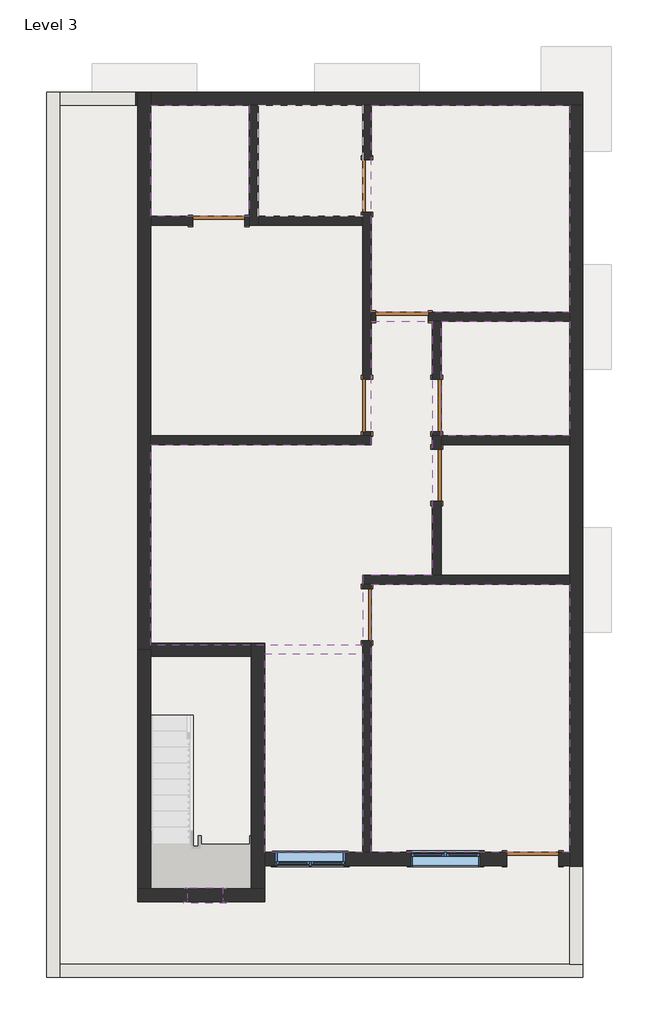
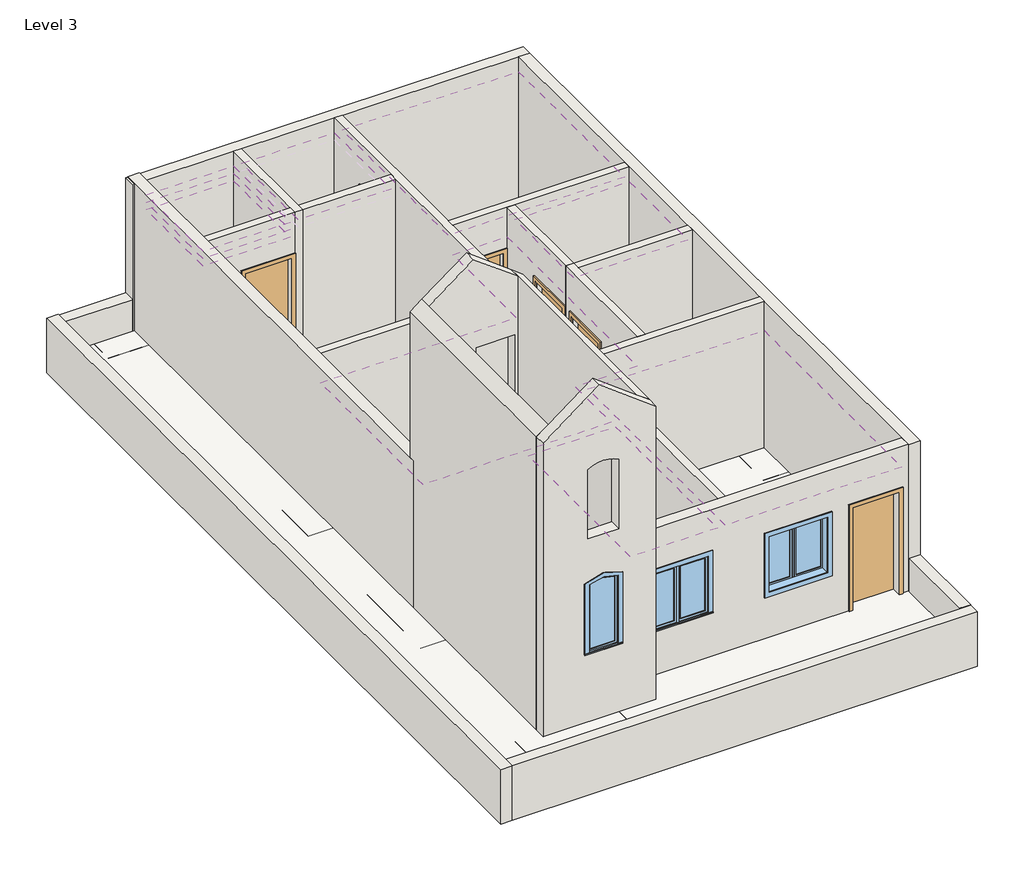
# One storey, part 1 of 2: 24 walls, 9 coverings, 8 doors, 3 slabs, 3 windows.
"""IFC4 building model written with IfcOpenShell, lengths in millimetres."""

from ifc_helpers import new_model, si_unit, frame, origin, origin_with_axes, place, context, project, spatial, polyline, circle_curve, outline, extrude, faceted_brep, transform, mapped, element, save
from ifc_brep_helpers import plane_surface, revolved_surface, advanced_brep
from components import single_flush_900_x_2100_0ca8825f, single_flush_900_x_2100_0f164b8f, single_flush_900_x_2100_f9494b7c, archtop_with_trim_600_x_1500_7229f101, casement_dbl_with_trim_1200_x_1200_534dcd48

model = new_model("IFC4")

# Units and contexts
model_context = context("Model", 3, world=origin())
ifc_project = project(units=[si_unit("LENGTHUNIT", "METRE", prefix="MILLI")], contexts=[model_context])

# Site, building, storey
site = spatial("IfcSite", under=ifc_project)
building = spatial("IfcBuilding", under=site)
storey = spatial("IfcBuildingStorey", under=building, Name="Level 3", Elevation=0.0)

# Coverings
placement = place(None, origin())
element("IfcCovering", 1, ObjectType="2' x 4' ACT System", at=placement, inside=storey, context=model_context, shape_type="SweptSolid", body=[
    extrude(outline(polyline([(-2750.200324, 5665.8948234), (-2750.200324, 7607.4073234), (-1032.5790209, 7607.4073234), (-1032.5790209, 5665.8948234), (-2750.200324, 5665.8948234)])), frame((0.0, 0.0, 2438.4), z_axis=(0.0, 0.0, 1.0), x_axis=(1.0, 0.0, 0.0)), (0.0, 0.0, 1.0), 57.15),
])
element("IfcCovering", 2, ObjectType="2' x 4' ACT System", at=placement, inside=storey, context=model_context, shape_type="SweptSolid", body=[
    extrude(outline(polyline([(1104.1959791, 1674.9198234), (1104.1959791, 3833.9198234), (2167.8209791, 3833.9198234), (2167.8209791, 1752.7073234), (2167.8209791, -607.9051766), (948.6209791, -607.9051766), (948.6209791, -1827.1051766), (-2750.200324, -1827.1051766), (-2750.200324, 1674.9198234), (1104.1959791, 1674.9198234)])), frame((0.0, 0.0, 2438.4), z_axis=(0.0, 0.0, 1.0), x_axis=(1.0, 0.0, 0.0)), (0.0, 0.0, 1.0), 57.15),
])
element("IfcCovering", 3, ObjectType="2' x 4' ACT System", at=placement, inside=storey, context=model_context, shape_type="SweptSolid", body=[
    extrude(outline(polyline([(948.6209791, -5448.1926766), (-764.2915209, -5448.1926766), (-764.2915209, -1973.3323069), (948.6209791, -1973.3323069), (948.6209791, -5448.1926766)])), frame((0.0, 0.0, 2438.4), z_axis=(0.0, 0.0, 1.0), x_axis=(1.0, 0.0, 0.0)), (0.0, 0.0, 1.0), 57.15),
])
element("IfcCovering", 4, ObjectType="2' x 4' ACT System", at=placement, inside=storey, context=model_context, shape_type="SweptSolid", body=[
    extrude(outline(polyline([(4569.7084791, -763.4801766), (4569.7084791, -5448.1926766), (1104.1959791, -5448.1926766), (1104.1959791, -763.4801766), (4569.7084791, -763.4801766)])), frame((0.0, 0.0, 2438.4), z_axis=(0.0, 0.0, 1.0), x_axis=(1.0, 0.0, 0.0)), (0.0, 0.0, 1.0), 57.15),
])
element("IfcCovering", 5, ObjectType="GWB on Mtl. Stud", at=placement, inside=storey, context=model_context, shape_type="SweptSolid", body=[
    extrude(outline(polyline([(-2750.200324, 5665.8948234), (-2750.200324, 7607.4073234), (-1032.5790209, 7607.4073234), (-1032.5790209, 5665.8948234), (-2750.200324, 5665.8948234)])), frame((0.0, 0.0, 2743.2), z_axis=(0.0, 0.0, 1.0), x_axis=(1.0, 0.0, 0.0)), (0.0, 0.0, 1.0), 107.95),
])
element("IfcCovering", 6, ObjectType="GWB on Mtl. Stud", at=placement, inside=storey, context=model_context, shape_type="SweptSolid", body=[
    extrude(outline(polyline([(-877.0040209, 5665.8948234), (-877.0040209, 7607.4073234), (948.6209791, 7607.4073234), (948.6209791, 5665.8948234), (-877.0040209, 5665.8948234)])), frame((0.0, 0.0, 2743.2), z_axis=(0.0, 0.0, 1.0), x_axis=(1.0, 0.0, 0.0)), (0.0, 0.0, 1.0), 107.95),
])
element("IfcCovering", 7, ObjectType="GWB on Mtl. Stud", at=placement, inside=storey, context=model_context, shape_type="SweptSolid", body=[
    extrude(outline(polyline([(1104.1959791, 3989.4948234), (1104.1959791, 7607.4073234), (4569.7084791, 7607.4073234), (4569.7084791, 3989.4948234), (1104.1959791, 3989.4948234)])), frame((0.0, 0.0, 2743.2), z_axis=(0.0, 0.0, 1.0), x_axis=(1.0, 0.0, 0.0)), (0.0, 0.0, 1.0), 107.95),
])
element("IfcCovering", 8, ObjectType="GWB on Mtl. Stud", at=placement, inside=storey, context=model_context, shape_type="SweptSolid", body=[
    extrude(outline(polyline([(4569.7084791, 3833.9198234), (4569.7084791, 1830.4948234), (2323.3959791, 1830.4948234), (2323.3959791, 3833.9198234), (4569.7084791, 3833.9198234)])), frame((0.0, 0.0, 2743.2), z_axis=(0.0, 0.0, 1.0), x_axis=(1.0, 0.0, 0.0)), (0.0, 0.0, 1.0), 107.95),
])
element("IfcCovering", 9, ObjectType="GWB on Mtl. Stud", at=placement, inside=storey, context=model_context, shape_type="SweptSolid", body=[
    extrude(outline(polyline([(-2750.200324, 5665.8948234), (-2750.200324, 7607.4073234), (-1032.5790209, 7607.4073234), (-1032.5790209, 5665.8948234), (-2750.200324, 5665.8948234)])), frame((0.0, 0.0, 2590.8), z_axis=(0.0, 0.0, 1.0), x_axis=(1.0, 0.0, 0.0)), (0.0, 0.0, 1.0), 107.95),
])

# Doors
single_flush_900_x_2100_shape = single_flush_900_x_2100_0ca8825f(model_context)
element("IfcDoor", 10, ObjectType="Single-Flush : 900 x 2100", at=placement, inside=storey, context=model_context, shape_type="MappedRepresentation", body=[
    mapped(single_flush_900_x_2100_shape, transform((3922.0084791, -5562.4926766, 0.0), x_axis=(1.0, 0.0, 0.0), y_axis=(0.0, 1.0, 0.0), z_axis=(0.0, 0.0, 1.0))),
])
single_flush_900_x_2100_2_shape = single_flush_900_x_2100_0f164b8f(model_context)
element("IfcDoor", 11, ObjectType="Single-Flush : 900 x 2100", at=placement, inside=storey, context=model_context, shape_type="MappedRepresentation", body=[
    mapped(single_flush_900_x_2100_2_shape, transform((1026.4084791, 6197.7073234, 0.0), x_axis=(0.0, -1.0, 0.0), y_axis=(1.0, 0.0, 0.0), z_axis=(0.0, 0.0, 1.0))),
])
element("IfcDoor", 12, ObjectType="Single-Flush : 900 x 2100", at=placement, inside=storey, context=model_context, shape_type="MappedRepresentation", body=[
    mapped(single_flush_900_x_2100_2_shape, transform((1026.4084791, 2362.3073234, 0.0), x_axis=(0.0, -1.0, 0.0), y_axis=(1.0, 0.0, 0.0), z_axis=(0.0, 0.0, 1.0))),
])
element("IfcDoor", 13, ObjectType="Single-Flush : 900 x 2100", at=placement, inside=storey, context=model_context, shape_type="MappedRepresentation", body=[
    mapped(single_flush_900_x_2100_2_shape, transform((1636.0084791, 3911.7073234, 0.0), x_axis=(-1.0, 0.0, 0.0), y_axis=(0.0, -1.0, 0.0), z_axis=(0.0, 0.0, 1.0))),
])
element("IfcDoor", 14, ObjectType="Single-Flush : 900 x 2100", at=placement, inside=storey, context=model_context, shape_type="MappedRepresentation", body=[
    mapped(single_flush_900_x_2100_2_shape, transform((2245.6084791, 1143.1073234, 0.0), x_axis=(0.0, 1.0, 0.0), y_axis=(-1.0, 0.0, 0.0), z_axis=(0.0, 0.0, 1.0))),
])
element("IfcDoor", 15, ObjectType="Single-Flush : 900 x 2100", at=placement, inside=storey, context=model_context, shape_type="MappedRepresentation", body=[
    mapped(single_flush_900_x_2100_2_shape, transform((1026.4084791, -1295.2926766, 0.0), x_axis=(0.0, 1.0, 0.0), y_axis=(-1.0, 0.0, 0.0), z_axis=(0.0, 0.0, 1.0))),
])
single_flush_900_x_2100_3_shape = single_flush_900_x_2100_f9494b7c(model_context)
element("IfcDoor", 16, ObjectType="Single-Flush : 900 x 2100", at=placement, inside=storey, context=model_context, shape_type="MappedRepresentation", body=[
    mapped(single_flush_900_x_2100_3_shape, transform((-1564.3915209, 5588.1073234, 0.0), x_axis=(1.0, 0.0, 0.0), y_axis=(0.0, 1.0, 0.0), z_axis=(0.0, 0.0, 1.0))),
])
element("IfcDoor", 17, ObjectType="Single-Flush : 900 x 2100", at=placement, inside=storey, context=model_context, shape_type="MappedRepresentation", body=[
    mapped(single_flush_900_x_2100_3_shape, transform((2245.6084791, 2362.3073234, 0.0), x_axis=(0.0, -1.0, 0.0), y_axis=(1.0, 0.0, 0.0), z_axis=(0.0, 0.0, 1.0))),
])

# Slabs
element("IfcSlab", 18, ObjectType="75 mm  LW Concrete on 50 mm Metal Deck", at=placement, inside=storey, context=model_context, shape_type="SweptSolid", body=[
    extrude(outline(polyline([(-4345.6915209, -7403.9926766), (-4345.6915209, 7607.4073234), (-3012.1915209, 7607.4073234), (-2859.7915209, 7607.4073234), (4569.7084791, 7607.4073234), (4569.7084791, -5689.4926766), (4569.7084791, -7403.9926766), (-4345.6915209, -7403.9926766)])), frame((0.0, 0.0, -127.0), z_axis=(0.0, 0.0, 1.0), x_axis=(1.0, 0.0, 0.0)), (0.0, 0.0, 1.0), 127.0),
])
element("IfcSlab", 19, ObjectType="75 mm  LW Concrete on 50 mm Metal Deck", at=placement, inside=storey, context=model_context, shape_type="SweptSolid", body=[
    extrude(outline(polyline([(-2978.800324, 7836.0073234), (4798.3084791, 7836.0073234), (4798.3084791, -5676.7926766), (-764.2915209, -5676.7926766), (-764.2915209, -1968.3926766), (-2978.800324, -1968.3926766), (-2978.800324, 7836.0073234)])), frame((0.0, 0.0, -127.0), z_axis=(0.0, 0.0, 1.0), x_axis=(1.0, 0.0, 0.0)), (0.0, 0.0, 1.0), 127.0),
])
element("IfcSlab", 20, ObjectType="Generic - 12\"", at=placement, inside=storey, context=model_context, shape_type="SweptSolid", body=[
    extrude(outline(polyline([(4798.3084791, -5676.7926766), (-764.2915209, -5676.7926766), (-764.2915209, -1982.6801766), (-2978.800324, -1982.6801766), (-2978.800324, 7836.0073234), (4798.3084791, 7836.0073234), (4798.3084791, -5676.7926766)])), frame((0.0, 0.0, -304.8), z_axis=(0.0, 0.0, 1.0), x_axis=(1.0, 0.0, 0.0)), (0.0, 0.0, 1.0), 304.8),
])

# Walls
element("IfcWall", 21, ObjectType="Interior - 6 1/8\" Partition (2-hr)", at=placement, inside=storey, context=model_context, shape_type="Brep", body=[
    faceted_brep([(948.6209791, 1905.1073234, 2133.6), (948.6209791, 1905.1073234, 0.0), (948.6209791, 1830.4948234, 0.0), (948.6209791, 1830.4948234, 3048.0), (948.6209791, 5510.3198234, 3048.0), (948.6209791, 5665.8948234, 3048.0), (948.6209791, 7607.4073234, 3048.0), (948.6209791, 7607.4073234, 0.0), (948.6209791, 6654.9073234, 0.0), (948.6209791, 6654.9073234, 2133.6), (948.6209791, 5740.5073234, 2133.6), (948.6209791, 5740.5073234, 0.0), (948.6209791, 5665.8948234, 0.0), (948.6209791, 5510.3198234, 0.0), (948.6209791, 2819.5073234, 0.0), (948.6209791, 2819.5073234, 2133.6), (1104.1959791, 1830.4948234, 0.0), (1104.1959791, 1905.1073234, 0.0), (1104.1959791, 1905.1073234, 2133.6), (1104.1959791, 2819.5073234, 2133.6), (1104.1959791, 2819.5073234, 0.0), (1104.1959791, 3833.9198234, 0.0), (1104.1959791, 3989.4948234, 0.0), (1104.1959791, 5740.5073234, 0.0), (1104.1959791, 5740.5073234, 2133.6), (1104.1959791, 6654.9073234, 2133.6), (1104.1959791, 6654.9073234, 0.0), (1104.1959791, 7607.4073234, 0.0), (1104.1959791, 7607.4073234, 3048.0), (1104.1959791, 3989.4948234, 3048.0), (1104.1959791, 3833.9198234, 3048.0), (1104.1959791, 1830.4948234, 3048.0)], [[[0, 1, 2, 3, 4, 5, 6, 7, 8, 9, 10, 11, 12, 13, 14, 15]], [[16, 17, 18, 19, 20, 21, 22, 23, 24, 25, 26, 27, 28, 29, 30, 31]], [[8, 7, 27, 26]], [[2, 1, 17, 16]], [[14, 13, 12, 11, 23, 22, 21, 20]], [[6, 5, 4, 3, 31, 30, 29, 28]], [[7, 6, 28, 27]], [[24, 23, 11, 10]], [[25, 24, 10, 9]], [[26, 25, 9, 8]], [[18, 17, 1, 0]], [[19, 18, 0, 15]], [[20, 19, 15, 14]], [[3, 2, 16, 31]]]),
])
element("IfcWall", 22, ObjectType="Interior - 6 1/8\" Partition (2-hr)", at=placement, inside=storey, context=model_context, shape_type="Brep", body=[
    faceted_brep([(-1032.5790209, 7607.4073234, 0.0), (-1032.5790209, 5665.8948234, 0.0), (-1032.5790209, 5510.3198234, 0.0), (-1032.5790209, 5510.3198234, 3048.0), (-1032.5790209, 5665.8948234, 3048.0), (-1032.5790209, 7607.4073234, 3048.0), (-877.0040209, 7607.4073234, 0.0), (-877.0040209, 7607.4073234, 3048.0), (-877.0040209, 5665.8948234, 3048.0), (-877.0040209, 5510.3198234, 3048.0), (-877.0040209, 5510.3198234, 0.0), (-877.0040209, 5665.8948234, 0.0)], [[[0, 1, 2, 3, 4, 5]], [[6, 7, 8, 9, 10, 11]], [[2, 1, 0, 6, 11, 10]], [[5, 4, 3, 9, 8, 7]], [[0, 5, 7, 6]], [[3, 2, 10, 9]]]),
])
element("IfcWall", 23, ObjectType="Interior - 6 1/8\" Partition (2-hr)", at=placement, inside=storey, context=model_context, shape_type="SweptSolid", body=[
    extrude(outline(polyline([(2133.6, -1107.1915209), (0.0, -1107.1915209), (0.0, -1032.5790209), (3048.0, -1032.5790209), (3048.0, -2750.200324), (0.0, -2750.200324), (0.0, -2021.5915209), (2133.6, -2021.5915209), (2133.6, -1107.1915209)])), frame((0.0, 5510.3198234, 0.0), z_axis=(0.0, 1.0, 0.0), x_axis=(0.0, 0.0, 1.0)), (0.0, 0.0, 1.0), 155.575),
])
element("IfcWall", 24, ObjectType="Interior - 6 1/8\" Partition (2-hr)", at=placement, inside=storey, context=model_context, shape_type="SweptSolid", body=[
    extrude(outline(polyline([(948.6209791, 5510.3198234), (-877.0040209, 5510.3198234), (-877.0040209, 5665.8948234), (948.6209791, 5665.8948234), (948.6209791, 5510.3198234)])), origin_with_axes(), (0.0, 0.0, 1.0), 3048.0),
])
element("IfcWall", 25, ObjectType="Interior - 6 1/8\" Partition (2-hr)", at=placement, inside=storey, context=model_context, shape_type="Brep", body=[
    faceted_brep([(-2750.200324, 1674.9198234, 0.0), (1104.1959791, 1674.9198234, 0.0), (1104.1959791, 1674.9198234, 3048.710823), (-2750.200324, 1674.9198234, 3048.710823), (-2750.200324, 1830.4948234, 0.0), (-2750.200324, 1830.4948234, 3048.710823), (1104.1959791, 1830.4948234, 3048.710823), (1104.1959791, 1830.4948234, 3048.0), (1104.1959791, 1830.4948234, 0.0), (948.6209791, 1830.4948234, 0.0)], [[[0, 1, 2, 3]], [[4, 5, 6, 7, 8, 9]], [[1, 0, 4, 9, 8]], [[3, 2, 6, 5]], [[2, 1, 8, 7, 6]], [[0, 3, 5, 4]]]),
])
element("IfcWall", 26, ObjectType="Interior - 6 1/8\" Partition (2-hr)", at=placement, inside=storey, context=model_context, shape_type="Brep", body=[
    faceted_brep([(1104.1959791, 3833.9198234, 0.0), (1178.8084791, 3833.9198234, 0.0), (1178.8084791, 3833.9198234, 2133.6), (2093.2084791, 3833.9198234, 2133.6), (2093.2084791, 3833.9198234, 0.0), (2167.8209791, 3833.9198234, 0.0), (2323.3959791, 3833.9198234, 0.0), (4569.7084791, 3833.9198234, 0.0), (4569.7084791, 3833.9198234, 3048.0), (2323.3959791, 3833.9198234, 3048.0), (2167.8209791, 3833.9198234, 3048.0), (1104.1959791, 3833.9198234, 3048.0), (1178.8084791, 3989.4948234, 2133.6), (1178.8084791, 3989.4948234, 0.0), (1104.1959791, 3989.4948234, 0.0), (1104.1959791, 3989.4948234, 3048.0), (4569.7084791, 3989.4948234, 3048.0), (4569.7084791, 3989.4948234, 0.0), (2093.2084791, 3989.4948234, 0.0), (2093.2084791, 3989.4948234, 2133.6)], [[[0, 1, 2, 3, 4, 5, 6, 7, 8, 9, 10, 11]], [[12, 13, 14, 15, 16, 17, 18, 19]], [[18, 17, 7, 6, 5, 4]], [[14, 13, 1, 0]], [[11, 10, 9, 8, 16, 15]], [[8, 7, 17, 16]], [[0, 11, 15, 14]], [[2, 1, 13, 12]], [[3, 2, 12, 19]], [[4, 3, 19, 18]]]),
])
element("IfcWall", 27, ObjectType="Interior - 6 1/8\" Partition (2-hr)", at=placement, inside=storey, context=model_context, shape_type="SweptSolid", body=[
    extrude(outline(polyline([(4569.7084791, 1674.9198234), (2323.3959791, 1674.9198234), (2323.3959791, 1830.4948234), (4569.7084791, 1830.4948234), (4569.7084791, 1674.9198234)])), origin_with_axes(), (0.0, 0.0, 1.0), 3048.0),
])
element("IfcWall", 28, ObjectType="Interior - 6 1/8\" Partition (2-hr)", at=placement, inside=storey, context=model_context, shape_type="Brep", body=[
    faceted_brep([(948.6209791, -763.4801766, 0.0), (1104.1959791, -763.4801766, 0.0), (4569.7084791, -763.4801766, 0.0), (4569.7084791, -763.4801766, 3048.0), (1104.1959791, -763.4801766, 3048.0), (948.6209791, -763.4801766, 3048.0), (948.6209791, -607.9051766, 0.0), (948.6209791, -607.9051766, 3048.0), (2167.8209791, -607.9051766, 3048.0), (2323.3959791, -607.9051766, 3048.0), (4569.7084791, -607.9051766, 3048.0), (4569.7084791, -607.9051766, 0.0), (2323.3959791, -607.9051766, 0.0), (2167.8209791, -607.9051766, 0.0)], [[[0, 1, 2, 3, 4, 5]], [[6, 7, 8, 9, 10, 11, 12, 13]], [[2, 1, 0, 6, 13, 12, 11]], [[5, 4, 3, 10, 9, 8, 7]], [[3, 2, 11, 10]], [[0, 5, 7, 6]]]),
])
element("IfcWall", 29, ObjectType="Interior - 6 1/8\" Partition (2-hr)", at=placement, inside=storey, context=model_context, shape_type="SweptSolid", body=[
    extrude(outline(polyline([(1905.1073234, 2133.6), (1905.1073234, 0.0), (1830.4948234, 0.0), (1830.4948234, 3048.0), (3833.9198234, 3048.0), (3833.9198234, 0.0), (2819.5073234, 0.0), (2819.5073234, 2133.6), (1905.1073234, 2133.6)])), frame((2167.8209791, 0.0, 0.0), z_axis=(1.0, 0.0, 0.0), x_axis=(0.0, 1.0, 0.0)), (0.0, 0.0, 1.0), 155.575),
])
element("IfcWall", 30, ObjectType="Interior - 6 1/8\" Partition (2-hr)", at=placement, inside=storey, context=model_context, shape_type="Brep", body=[
    faceted_brep([(2167.8209791, 1830.4948234, 0.0), (2167.8209791, 1600.3073234, 0.0), (2167.8209791, 1600.3073234, 2133.6), (2167.8209791, 685.9073234, 2133.6), (2167.8209791, 685.9073234, 0.0), (2167.8209791, -607.9051766, 0.0), (2167.8209791, -607.9051766, 3048.0), (2167.8209791, 1830.4948234, 3048.0), (2323.3959791, 1600.3073234, 2133.6), (2323.3959791, 1600.3073234, 0.0), (2323.3959791, 1674.9198234, 0.0), (2323.3959791, 1830.4948234, 0.0), (2323.3959791, 1830.4948234, 3048.0), (2323.3959791, 1674.9198234, 3048.0), (2323.3959791, -607.9051766, 3048.0), (2323.3959791, -607.9051766, 0.0), (2323.3959791, 685.9073234, 0.0), (2323.3959791, 685.9073234, 2133.6)], [[[0, 1, 2, 3, 4, 5, 6, 7]], [[8, 9, 10, 11, 12, 13, 14, 15, 16, 17]], [[16, 15, 5, 4]], [[11, 10, 9, 1, 0]], [[7, 6, 14, 13, 12]], [[0, 7, 12, 11]], [[2, 1, 9, 8]], [[3, 2, 8, 17]], [[4, 3, 17, 16]], [[6, 5, 15, 14]]]),
])
element("IfcWall", 31, ObjectType="Interior - 6 1/8\" Partition (2-hr)", at=placement, inside=storey, context=model_context, shape_type="SweptSolid", body=[
    extrude(outline(polyline([(-763.4801766, 0.0), (-838.0926766, 0.0), (-838.0926766, 2133.6), (-1752.4926766, 2133.6), (-1752.4926766, 0.0), (-5448.1926766, 0.0), (-5448.1926766, 3048.0), (-763.4801766, 3048.0), (-763.4801766, 0.0)])), frame((948.6209791, 0.0, 0.0), z_axis=(1.0, 0.0, 0.0), x_axis=(0.0, 1.0, 0.0)), (0.0, 0.0, 1.0), 155.575),
])
element("IfcWall", 32, ObjectType="eXT", at=placement, inside=storey, context=model_context, shape_type="Brep", body=[
    faceted_brep([(-2750.200324, 7607.4073234, 0.0), (-1032.5790209, 7607.4073234, 0.0), (-877.0040209, 7607.4073234, 0.0), (948.6209791, 7607.4073234, 0.0), (1104.1959791, 7607.4073234, 0.0), (4569.7084791, 7607.4073234, 0.0), (4798.3084791, 7607.4073234, 0.0), (4798.3084791, 7607.4073234, 3043.7464602), (-2750.200324, 7607.4073234, 3043.7464602), (-2750.200324, 7836.0073234, 0.0), (-2750.200324, 7836.0073234, 3043.7464602), (4798.3084791, 7836.0073234, 3043.7464602), (4798.3084791, 7836.0073234, 0.0)], [[[0, 1, 2, 3, 4, 5, 6, 7, 8]], [[9, 10, 11, 12]], [[6, 5, 4, 3, 2, 1, 0, 9, 12]], [[8, 7, 11, 10]], [[7, 6, 12, 11]], [[0, 8, 10, 9]]]),
])
element("IfcWall", 33, ObjectType="eXT", at=placement, inside=storey, context=model_context, shape_type="Brep", body=[
    faceted_brep([(4798.3084791, -7403.9926766, -419.4569457), (4798.3084791, -5689.4926766, -419.4569457), (4798.3084791, -5689.4926766, 0.0), (4798.3084791, -5689.4926766, 685.0277478), (4798.3084791, -7403.9926766, 685.0277478), (4569.7084791, -7403.9926766, -419.4569457), (4569.7084791, -7403.9926766, 685.0277478), (4569.7084791, -5689.4926766, 685.0277478), (4569.7084791, -5689.4926766, 0.0), (4569.7084791, -5689.4926766, -419.4569457)], [[[0, 1, 2, 3, 4]], [[5, 6, 7, 8, 9]], [[1, 0, 5, 9]], [[3, 2, 1, 9, 8, 7]], [[4, 3, 7, 6]], [[0, 4, 6, 5]]]),
])
element("IfcWall", 34, ObjectType="eXT", at=placement, inside=storey, context=model_context, shape_type="Brep", body=[
    faceted_brep([(4379.2084791, -5676.7926766, 2133.6), (4379.2084791, -5676.7926766, 0.0), (4569.7084791, -5676.7926766, 0.0), (4569.7084791, -5676.7926766, 3048.0), (-764.2915209, -5676.7926766, 3048.0), (-764.2915209, -5676.7926766, 0.0), (3464.8084791, -5676.7926766, 0.0), (3464.8084791, -5676.7926766, 2133.6), (-573.7915209, -5676.7926766, 2133.6), (645.4084791, -5676.7926766, 2133.6), (645.4084791, -5676.7926766, 914.4), (-573.7915209, -5676.7926766, 914.4), (3007.6084791, -5676.7926766, 2133.6), (3007.6084791, -5676.7926766, 914.4), (1788.4084791, -5676.7926766, 914.4), (1788.4084791, -5676.7926766, 2133.6), (4569.7084791, -5448.1926766, 0.0), (4379.2084791, -5448.1926766, 0.0), (4379.2084791, -5448.1926766, 2133.6), (3464.8084791, -5448.1926766, 2133.6), (3464.8084791, -5448.1926766, 0.0), (1104.1959791, -5448.1926766, 0.0), (948.6209791, -5448.1926766, 0.0), (-764.2915209, -5448.1926766, 0.0), (-764.2915209, -5448.1926766, 3048.0), (948.6209791, -5448.1926766, 3048.0), (1104.1959791, -5448.1926766, 3048.0), (4569.7084791, -5448.1926766, 3048.0), (-573.7915209, -5448.1926766, 2133.6), (-573.7915209, -5448.1926766, 914.4), (645.4084791, -5448.1926766, 914.4), (645.4084791, -5448.1926766, 2133.6), (3007.6084791, -5448.1926766, 2133.6), (1788.4084791, -5448.1926766, 2133.6), (1788.4084791, -5448.1926766, 914.4), (3007.6084791, -5448.1926766, 914.4)], [[[0, 1, 2, 3, 4, 5, 6, 7], [8, 9, 10, 11], [12, 13, 14, 15]], [[16, 17, 18, 19, 20, 21, 22, 23, 24, 25, 26, 27], [28, 29, 30, 31], [32, 33, 34, 35]], [[6, 5, 23, 22, 21, 20]], [[2, 1, 17, 16]], [[4, 3, 27, 26, 25, 24]], [[29, 28, 8, 11]], [[30, 29, 11, 10]], [[31, 30, 10, 9]], [[28, 31, 9, 8]], [[13, 12, 32, 35]], [[14, 13, 35, 34]], [[15, 14, 34, 33]], [[12, 15, 33, 32]], [[18, 17, 1, 0]], [[19, 18, 0, 7]], [[20, 19, 7, 6]], [[3, 2, 16, 27]], [[5, 4, 24, 23]]]),
])
element("IfcWall", 35, ObjectType="eXT", at=placement, inside=storey, context=model_context, shape_type="Brep", body=[
    faceted_brep([(-764.2915209, -6083.1926766, 0.0), (-764.2915209, -5676.7926766, 0.0), (-764.2915209, -5448.1926766, 0.0), (-764.2915209, -1790.5926766, 0.0), (-764.2915209, -1790.5926766, 6096.0), (-764.2915209, -6083.1926766, 6096.0), (-992.8915209, -6083.1926766, 0.0), (-992.8915209, -6083.1926766, 6267.45), (-992.8915209, -2019.1926766, 6267.45), (-992.8915209, -1790.5926766, 6267.45), (-992.8915209, -1790.5926766, 0.0), (-992.8915209, -2019.1926766, 0.0)], [[[0, 1, 2, 3, 4, 5]], [[6, 7, 8, 9, 10, 11]], [[3, 2, 1, 0, 6, 11, 10]], [[0, 5, 7, 6]], [[4, 3, 10, 9]], [[5, 4, 9, 8, 7]]]),
])
element("IfcWall", 36, ObjectType="eXT", at=placement, inside=storey, context=model_context, shape_type="Brep", body=[
    faceted_brep([(-2978.800324, 7836.0073234, 3059.1613432), (-2978.800324, 7836.0073234, 3048.0), (-2978.800324, 7836.0073234, 0.0), (-2978.800324, 7607.4073234, 0.0), (-2978.800324, -1904.8926766, 0.0), (-2978.800324, -1904.8926766, 3059.1613432), (-2978.800324, -1790.5926766, 3059.1613432), (-2750.200324, 7836.0073234, 0.0), (-2750.200324, 7836.0073234, 3043.7464602), (-2750.200324, 7836.0073234, 3059.1613432), (-2750.200324, -1790.5926766, 3059.1613432), (-2750.200324, -1904.8926766, 3059.1613432), (-2750.200324, -1904.8926766, 0.0), (-2750.200324, -1790.5926766, 0.0), (-2750.200324, 1674.9198234, 0.0), (-2750.200324, 1830.4948234, 0.0), (-2750.200324, 5510.3198234, 0.0), (-2750.200324, 5665.8948234, 0.0), (-2750.200324, 7607.4073234, 0.0)], [[[0, 1, 2, 3, 4, 5, 6]], [[7, 8, 9, 10, 11, 12, 13, 14, 15, 16, 17, 18]], [[4, 3, 2, 7, 18, 17, 16, 15, 14, 13, 12]], [[5, 4, 12, 11]], [[0, 6, 5, 11, 10, 9]], [[0, 9, 8, 7, 2, 1]]]),
])
element("IfcWall", 37, ObjectType="eXT", at=placement, inside=storey, context=model_context, shape_type="Brep", body=[
    faceted_brep([(-4574.2915209, 7836.0073234, -457.2), (-4574.2915209, -7632.5926766, -457.2), (-4574.2915209, -7632.5926766, 676.6467531), (-4574.2915209, 7836.0073234, 676.6467531), (-4345.6915209, 7836.0073234, -457.2), (-4345.6915209, 7836.0073234, 676.6467531), (-4345.6915209, -7632.5926766, 676.6467531), (-4345.6915209, -7632.5926766, 674.7936138), (-4345.6915209, -7632.5926766, -457.2), (-4345.6915209, -7403.9926766, -457.2)], [[[0, 1, 2, 3]], [[4, 5, 6, 7, 8, 9]], [[1, 0, 4, 9, 8]], [[3, 2, 6, 5]], [[2, 1, 8, 7, 6]], [[0, 3, 5, 4]]]),
])
element("IfcWall", 38, ObjectType="eXT", at=placement, inside=storey, context=model_context, shape_type="Brep", body=[
    faceted_brep([(-4345.6915209, -7632.5926766, -457.2), (4798.3084791, -7632.5926766, -457.2), (4798.3084791, -7632.5926766, 674.7936138), (-4345.6915209, -7632.5926766, 674.7936138), (-4345.6915209, -7403.9926766, -457.2), (-4345.6915209, -7403.9926766, -127.0), (-4345.6915209, -7403.9926766, 0.0), (-4345.6915209, -7403.9926766, 674.7936138), (4798.3084791, -7403.9926766, 674.7936138), (4798.3084791, -7403.9926766, -457.2)], [[[0, 1, 2, 3]], [[4, 5, 6, 7, 8, 9]], [[1, 0, 4, 9]], [[3, 2, 8, 7]], [[0, 3, 7, 6, 5, 4]], [[2, 1, 9, 8]]]),
])
element("IfcWall", 39, ObjectType="eXT", at=placement, inside=storey, context=model_context, shape_type="Brep", body=[
    faceted_brep([(4798.3084791, -5689.4926766, 0.0), (4798.3084791, 7607.4073234, 0.0), (4798.3084791, 7607.4073234, 3043.7464602), (4798.3084791, 7607.4073234, 3048.0), (4798.3084791, -5689.4926766, 3048.0), (4798.3084791, -5689.4926766, 685.0277478), (4569.7084791, -5689.4926766, 0.0), (4569.7084791, -5689.4926766, 685.0277478), (4569.7084791, -5689.4926766, 3048.0), (4569.7084791, -5676.7926766, 3048.0), (4569.7084791, -5448.1926766, 3048.0), (4569.7084791, -763.4801766, 3048.0), (4569.7084791, -607.9051766, 3048.0), (4569.7084791, 1674.9198234, 3048.0), (4569.7084791, 1830.4948234, 3048.0), (4569.7084791, 3833.9198234, 3048.0), (4569.7084791, 3989.4948234, 3048.0), (4569.7084791, 7607.4073234, 3048.0), (4569.7084791, 7607.4073234, 0.0), (4569.7084791, 3989.4948234, 0.0), (4569.7084791, 3833.9198234, 0.0), (4569.7084791, 1830.4948234, 0.0), (4569.7084791, 1674.9198234, 0.0), (4569.7084791, -607.9051766, 0.0), (4569.7084791, -763.4801766, 0.0), (4569.7084791, -5448.1926766, 0.0), (4569.7084791, -5676.7926766, 0.0)], [[[0, 1, 2, 3, 4, 5]], [[6, 7, 8, 9, 10, 11, 12, 13, 14, 15, 16, 17, 18, 19, 20, 21, 22, 23, 24, 25, 26]], [[1, 0, 6, 26, 25, 24, 23, 22, 21, 20, 19, 18]], [[4, 3, 17, 16, 15, 14, 13, 12, 11, 10, 9, 8]], [[0, 5, 4, 8, 7, 6]], [[3, 2, 1, 18, 17]]]),
])
element("IfcWall", 40, ObjectType="eXT", at=placement, inside=storey, context=model_context, shape_type="Brep", body=[
    faceted_brep([(-4345.6915209, 7607.4073234, -457.2), (-3012.1915209, 7607.4073234, -457.2), (-3012.1915209, 7607.4073234, 0.0), (-3012.1915209, 7607.4073234, 658.3424014), (-4345.6915209, 7607.4073234, 658.3424014), (-4345.6915209, 7836.0073234, -457.2), (-4345.6915209, 7836.0073234, 658.3424014), (-3012.1915209, 7836.0073234, 658.3424014), (-3012.1915209, 7836.0073234, 0.0), (-3012.1915209, 7836.0073234, -457.2)], [[[0, 1, 2, 3, 4]], [[5, 6, 7, 8, 9]], [[1, 0, 5, 9]], [[3, 2, 1, 9, 8, 7]], [[4, 3, 7, 6]], [[0, 4, 6, 5]]]),
])
element("IfcWall", 41, ObjectType="eXT", at=placement, inside=storey, context=model_context, shape_type="Brep", body=[
    faceted_brep([(-3012.1915209, 7607.4073234, 0.0), (-2978.800324, 7607.4073234, 0.0), (-2978.800324, 7607.4073234, 3048.0), (-3012.1915209, 7607.4073234, 3048.0), (-3012.1915209, 7607.4073234, 658.3424014), (-3012.1915209, 7836.0073234, 0.0), (-3012.1915209, 7836.0073234, 658.3424014), (-3012.1915209, 7836.0073234, 3048.0), (-2978.800324, 7836.0073234, 3048.0), (-2978.800324, 7836.0073234, 0.0)], [[[0, 1, 2, 3, 4]], [[5, 6, 7, 8, 9]], [[1, 0, 5, 9]], [[3, 2, 8, 7]], [[0, 4, 3, 7, 6, 5]], [[2, 1, 9, 8]]]),
])
element("IfcWall", 42, ObjectType="eXT", at=placement, inside=storey, context=model_context, shape_type="AdvancedBrep", body=[
    advanced_brep(
    [(-2978.800324, -6311.7926766, 0.0), (-764.2915209, -6311.7926766, 0.0), (-764.2915209, -6311.7926766, 6096.0), (-1871.5459224, -6311.7926766, 6926.4408012), (-2978.800324, -6311.7926766, 6096.0), (-2102.500324, -6311.7926766, 5246.4124093), (-1797.700324, -6311.7926766, 5328.0833231), (-1492.900324, -6311.7926766, 5246.4124093), (-1492.900324, -6311.7926766, 3804.0833231), (-2102.500324, -6311.7926766, 3804.0833231), (-2102.500324, -6311.7926766, 2858.8124093), (-1797.700324, -6311.7926766, 2940.4833231), (-1492.900324, -6311.7926766, 2858.8124093), (-1492.900324, -6311.7926766, 1416.4833231), (-2102.500324, -6311.7926766, 1416.4833231), (-2978.800324, -6083.1926766, 0.0), (-2978.800324, -6083.1926766, 6096.0), (-2750.200324, -6083.1926766, 6267.45), (-1871.5459224, -6083.1926766, 6926.4408012), (-992.8915209, -6083.1926766, 6267.45), (-764.2915209, -6083.1926766, 6096.0), (-764.2915209, -6083.1926766, 0.0), (-992.8915209, -6083.1926766, 0.0), (-2102.500324, -6083.1926766, 5246.4124093), (-2102.500324, -6083.1926766, 3804.0833231), (-1492.900324, -6083.1926766, 3804.0833231), (-1492.900324, -6083.1926766, 5246.4124093), (-1797.700324, -6083.1926766, 5328.0833231), (-2102.500324, -6083.1926766, 2858.8124093), (-2102.500324, -6083.1926766, 1416.4833231), (-1492.900324, -6083.1926766, 1416.4833231), (-1492.900324, -6083.1926766, 2858.8124093), (-1797.700324, -6083.1926766, 2940.4833231)],
    [
        (0, 1),
        (1, 2),
        (2, 3),
        (3, 4),
        (4, 0),
        (5, 6, circle_curve(frame((-1797.700324, -6311.7926766, 4718.4833231), z_axis=(0.0, 1.0, 0.0), x_axis=(-1.0, 0.0, 0.0)), 609.6)),
        (6, 7, circle_curve(frame((-1797.700324, -6311.7926766, 4718.4833231), z_axis=(0.0, 1.0, 0.0), x_axis=(-1.0, 0.0, 0.0)), 609.6)),
        (7, 8),
        (8, 9),
        (9, 5),
        (10, 11, circle_curve(frame((-1797.700324, -6311.7926766, 2330.8833231), z_axis=(0.0, 1.0, 0.0), x_axis=(-1.0, 0.0, 0.0)), 609.6)),
        (11, 12, circle_curve(frame((-1797.700324, -6311.7926766, 2330.8833231), z_axis=(0.0, 1.0, 0.0), x_axis=(-1.0, 0.0, 0.0)), 609.6)),
        (12, 13),
        (13, 14),
        (14, 10),
        (15, 16),
        (16, 17),
        (17, 18),
        (18, 19),
        (19, 20),
        (20, 21),
        (21, 22),
        (22, 15),
        (23, 24),
        (24, 25),
        (25, 26),
        (26, 27, circle_curve(frame((-1797.700324, -6083.1926766, 4718.4833231), z_axis=(0.0, -1.0, 0.0), x_axis=(-1.0, 0.0, 0.0)), 609.6)),
        (27, 23, circle_curve(frame((-1797.700324, -6083.1926766, 4718.4833231), z_axis=(0.0, -1.0, 0.0), x_axis=(-1.0, 0.0, 0.0)), 609.6)),
        (28, 29),
        (29, 30),
        (30, 31),
        (31, 32, circle_curve(frame((-1797.700324, -6083.1926766, 2330.8833231), z_axis=(0.0, -1.0, 0.0), x_axis=(-1.0, 0.0, 0.0)), 609.6)),
        (32, 28, circle_curve(frame((-1797.700324, -6083.1926766, 2330.8833231), z_axis=(0.0, -1.0, 0.0), x_axis=(-1.0, 0.0, 0.0)), 609.6)),
        (0, 15),
        (21, 1),
        (4, 16),
        (23, 5),
        (9, 24),
        (8, 25),
        (7, 26),
        (6, 27),
        (28, 10),
        (14, 29),
        (13, 30),
        (12, 31),
        (11, 32),
        (20, 2),
        (3, 18),
    ],
    [
        plane_surface(frame((-2859.7915209, -6311.7926766, 0.0), z_axis=(0.0, -1.0, 0.0), x_axis=(1.0, 0.0, 0.0))),
        plane_surface(frame((-2859.7915209, -6083.1926766, 0.0), z_axis=(0.0, 1.0, 0.0), x_axis=(-1.0, 0.0, 0.0))),
        plane_surface(frame((-2864.500324, -6311.7926766, 0.0), z_axis=(0.0, 0.0, -1.0), x_axis=(0.0, 1.0, 0.0))),
        plane_surface(frame((-2978.800324, -2070.9374089, -41.1415138), z_axis=(-1.0, 0.0, 0.0), x_axis=(0.0, -1.0, 0.0))),
        plane_surface(frame((-2102.500324, -6083.1926766, 5246.4124093), z_axis=(1.0, 0.0, 0.0), x_axis=(0.0, -1.0, 0.0))),
        plane_surface(frame((-2102.500324, -6083.1926766, 3804.0833231), z_axis=(0.0, 0.0, 1.0), x_axis=(0.0, -1.0, 0.0))),
        plane_surface(frame((-1492.900324, -6083.1926766, 3804.0833231), z_axis=(-1.0, 0.0, 0.0), x_axis=(0.0, -1.0, 0.0))),
        revolved_surface(polyline([(-2407.300324, -6311.7926766, 4718.4833231), (-2407.300324, -6083.1926766, 4718.4833231)]), (-1797.700324, -6083.1926766, 4718.4833231), (0.0, -1.0, 0.0)),
        plane_surface(frame((-2102.500324, -6083.1926766, 2858.8124093), z_axis=(1.0, 0.0, 0.0), x_axis=(0.0, -1.0, 0.0))),
        plane_surface(frame((-2102.500324, -6083.1926766, 1416.4833231), z_axis=(0.0, 0.0, 1.0), x_axis=(0.0, -1.0, 0.0))),
        plane_surface(frame((-1492.900324, -6083.1926766, 1416.4833231), z_axis=(-1.0, 0.0, 0.0), x_axis=(0.0, -1.0, 0.0))),
        revolved_surface(polyline([(-2407.300324, -6311.7926766, 2330.8833231), (-2407.300324, -6083.1926766, 2330.8833231)]), (-1797.700324, -6083.1926766, 2330.8833231), (0.0, -1.0, 0.0)),
        plane_surface(frame((-764.2915209, -6171.7591718, 0.0), z_axis=(1.0, 0.0, 0.0), x_axis=(0.0, 1.0, 0.0))),
        plane_surface(frame((-2978.800324, -1790.5926766, 6096.0), z_axis=(-0.6000000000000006, 0.0, 0.7999999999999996), x_axis=(0.0, -1.0, 0.0))),
        plane_surface(frame((-764.2915209, -6311.7926766, 6096.0), z_axis=(0.600000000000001, 0.0, 0.7999999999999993), x_axis=(0.0, 1.0, 0.0))),
    ],
    [
        (0, [[1, 2, 3, 4, 5], [6, 7, 8, 9, 10], [11, 12, 13, 14, 15]]),
        (1, [[16, 17, 18, 19, 20, 21, 22, 23], [24, 25, 26, 27, 28], [29, 30, 31, 32, 33]]),
        (2, [[-1, 34, -23, -22, 35]]),
        (3, [[-5, 36, -16, -34]]),
        (4, [[-24, 37, -10, 38]]),
        (5, [[-25, -38, -9, 39]]),
        (6, [[-26, -39, -8, 40]]),
        (7, [[-27, -40, -7, 41]]),
        (7, [[-28, -41, -6, -37]]),
        (8, [[-29, 42, -15, 43]]),
        (9, [[-30, -43, -14, 44]]),
        (10, [[-31, -44, -13, 45]]),
        (11, [[-32, -45, -12, 46]]),
        (11, [[-33, -46, -11, -42]]),
        (12, [[-2, -35, -21, 47]]),
        (13, [[-4, 48, -18, -17, -36]]),
        (14, [[-3, -47, -20, -19, -48]]),
    ],
),
])
element("IfcWall", 43, ObjectType="eXT", at=placement, inside=storey, context=model_context, shape_type="Brep", body=[
    faceted_brep([(-2978.800324, -1904.8926766, -41.1415138), (-2978.800324, -6083.1926766, -41.1415138), (-2978.800324, -6083.1926766, 0.0), (-2978.800324, -6083.1926766, 6096.0), (-2978.800324, -1790.5926766, 6096.0), (-2978.800324, -1790.5926766, 3059.1613432), (-2978.800324, -1904.8926766, 3059.1613432), (-2978.800324, -1904.8926766, 0.0), (-2750.200324, -1904.8926766, -41.1415138), (-2750.200324, -1904.8926766, 0.0), (-2750.200324, -1904.8926766, 3059.1613432), (-2750.200324, -1790.5926766, 3059.1613432), (-2750.200324, -1790.5926766, 6267.45), (-2750.200324, -2019.1926766, 6267.45), (-2750.200324, -6083.1926766, 6267.45), (-2750.200324, -6083.1926766, -41.1415138)], [[[0, 1, 2, 3, 4, 5, 6, 7]], [[8, 9, 10, 11, 12, 13, 14, 15]], [[1, 0, 8, 15]], [[3, 2, 1, 15, 14]], [[0, 7, 6, 10, 9, 8]], [[5, 11, 10, 6]], [[5, 4, 12, 11]], [[4, 3, 14, 13, 12]]]),
])
element("IfcWall", 44, ObjectType="eXT", at=placement, inside=storey, context=model_context, shape_type="Brep", body=[
    faceted_brep([(-2750.200324, -2019.1926766, 6267.45), (-2750.200324, -2019.1926766, 0.0), (-992.8915209, -2019.1926766, 0.0), (-992.8915209, -2019.1926766, 6267.45), (-1871.5459224, -2019.1926766, 6926.4408012), (-1818.3915209, -2019.1926766, 3048.0), (-1818.3915209, -2019.1926766, 5080.0), (-1056.3915209, -2019.1926766, 5080.0), (-1056.3915209, -2019.1926766, 3048.0), (-2750.200324, -1790.5926766, 0.0), (-2750.200324, -1790.5926766, 3059.1613432), (-2750.200324, -1790.5926766, 6267.45), (-1871.5459224, -1790.5926766, 6926.4408012), (-992.8915209, -1790.5926766, 6267.45), (-992.8915209, -1790.5926766, 0.0), (-1818.3915209, -1790.5926766, 3048.0), (-1056.3915209, -1790.5926766, 3048.0), (-1056.3915209, -1790.5926766, 5080.0), (-1818.3915209, -1790.5926766, 5080.0), (-2750.200324, -1904.8926766, 0.0)], [[[0, 1, 2, 3, 4], [5, 6, 7, 8]], [[9, 10, 11, 12, 13, 14], [15, 16, 17, 18]], [[2, 1, 19, 9, 14]], [[3, 2, 14, 13]], [[0, 11, 10, 9, 19, 1]], [[0, 4, 12, 11]], [[4, 3, 13, 12]], [[16, 15, 5, 8]], [[17, 16, 8, 7]], [[18, 17, 7, 6]], [[15, 18, 6, 5]]]),
])

# Windows
archtop_with_trim_600_x_1500_shape = archtop_with_trim_600_x_1500_7229f101(model_context)
element("IfcWindow", 45, ObjectType="Archtop with Trim : 600 x 1500", at=placement, inside=storey, context=model_context, shape_type="MappedRepresentation", body=[
    mapped(archtop_with_trim_600_x_1500_shape, transform((-1785.720026, -6197.4926766, 806.8833231), x_axis=(-1.0, 0.0, 0.0), y_axis=(0.0, -1.0, 0.0), z_axis=(0.0, 0.0, 1.0))),
])
casement_dbl_with_trim_1200_x_1200_shape = casement_dbl_with_trim_1200_x_1200_534dcd48(model_context)
element("IfcWindow", 46, ObjectType="Casement Dbl with Trim : 1200 x 1200", at=placement, inside=storey, context=model_context, shape_type="MappedRepresentation", body=[
    mapped(casement_dbl_with_trim_1200_x_1200_shape, transform((35.8084791, -5543.4426766, 0.0), x_axis=(-1.0, 0.0, 0.0), y_axis=(0.0, -1.0, 0.0), z_axis=(0.0, 0.0, 1.0))),
])
element("IfcWindow", 47, ObjectType="Casement Dbl with Trim : 1200 x 1200", at=placement, inside=storey, context=model_context, shape_type="MappedRepresentation", body=[
    mapped(casement_dbl_with_trim_1200_x_1200_shape, transform((2398.0084791, -5581.5426766, 0.0), x_axis=(1.0, 0.0, 0.0), y_axis=(0.0, 1.0, 0.0), z_axis=(0.0, 0.0, 1.0))),
])

save(model, "model.ifc")
